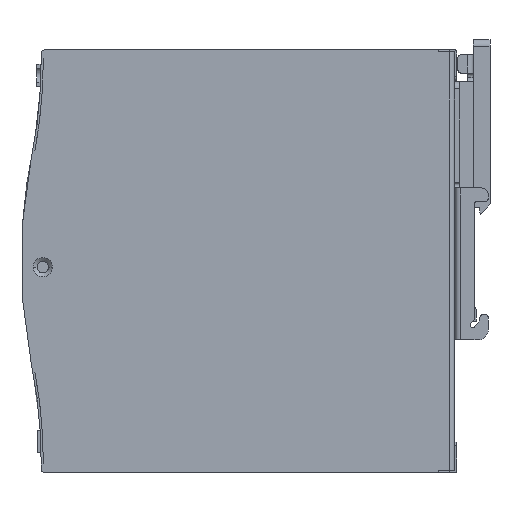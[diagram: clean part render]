
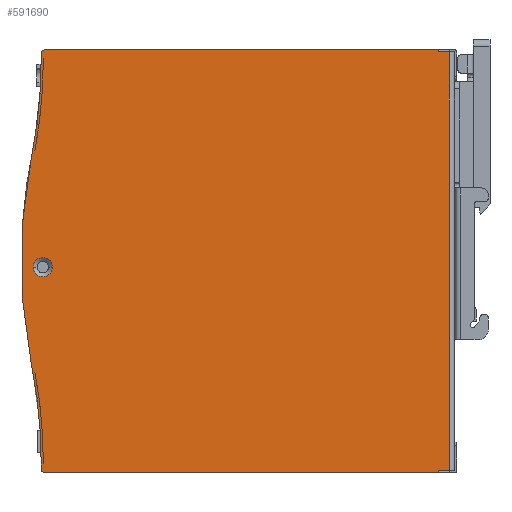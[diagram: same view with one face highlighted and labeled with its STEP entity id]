
A CAD part, front view. The second image highlights one B-rep face of the part: STEP entity #591690.
In plain terms, the highlighted planar face has unit normal (0, -1, 0).
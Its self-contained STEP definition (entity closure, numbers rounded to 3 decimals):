
#1620=CARTESIAN_POINT('',(95.953,13.236,74.));
#1630=VERTEX_POINT('',#1620);
#1660=CARTESIAN_POINT('',(0.,13.236,74.));
#1670=DIRECTION('',(1.,0.,0.));
#1680=VECTOR('',#1670,1.);
#1690=LINE('',#1660,#1680);
#1700=CARTESIAN_POINT('',(92.82,13.236,74.));
#1710=VERTEX_POINT('',#1700);
#1720=EDGE_CURVE('',#1710,#1630,#1690,.T.);
#5940=CARTESIAN_POINT('',(-24.282,13.236,
72.061));
#5950=VERTEX_POINT('',#5940);
#5980=CARTESIAN_POINT('',(-174.282,13.236,72.019))
;
#5990=DIRECTION('',(0.,-1.,0.));
#6000=DIRECTION('',(0.,0.,-1.));
#6010=AXIS2_PLACEMENT_3D('',#5980,#5990,#6000);
#6020=CIRCLE('',#6010,150.);
#6030=CARTESIAN_POINT('',(-26.76,13.236,
44.865));
#6040=VERTEX_POINT('',#6030);
#6050=EDGE_CURVE('',#6040,#5950,#6020,.T.);
#6560=CARTESIAN_POINT('',(92.82,13.236,-50.));
#6570=VERTEX_POINT('',#6560);
#6600=CARTESIAN_POINT('',(0.,13.236,-50.));
#6610=DIRECTION('',(1.,0.,0.));
#6620=VECTOR('',#6610,1.);
#6630=LINE('',#6600,#6620);
#6640=CARTESIAN_POINT('',(95.953,13.236,-50.));
#6650=VERTEX_POINT('',#6640);
#6660=EDGE_CURVE('',#6570,#6650,#6630,.T.);
#10680=CARTESIAN_POINT('',(-174.282,13.236,-48.019
));
#10690=DIRECTION('',(0.,-1.,0.));
#10700=DIRECTION('',(0.,0.,-1.));
#10710=AXIS2_PLACEMENT_3D('',#10680,#10690,#10700);
#10720=CIRCLE('',#10710,150.);
#10730=CARTESIAN_POINT('',(-24.282,13.236,
-48.061));
#10740=VERTEX_POINT('',#10730);
#10750=CARTESIAN_POINT('',(-26.76,13.236,
-20.866));
#10760=VERTEX_POINT('',#10750);
#10770=EDGE_CURVE('',#10740,#10760,#10720,.T.);
#206600=CARTESIAN_POINT('',(-23.889,13.236,
-50.6));
#206610=VERTEX_POINT('',#206600);
#206640=CARTESIAN_POINT('',(1754.346,13.236,-50.6
));
#206650=DIRECTION('',(-1.,0.,0.));
#206660=VECTOR('',#206650,1.);
#206670=LINE('',#206640,#206660);
#206680=CARTESIAN_POINT('',(92.82,13.236,
-50.6));
#206690=VERTEX_POINT('',#206680);
#206700=EDGE_CURVE('',#206690,#206610,#206670,.T.);
#399880=CARTESIAN_POINT('',(92.82,13.236,
74.6));
#399890=VERTEX_POINT('',#399880);
#400080=CARTESIAN_POINT('',(92.82,13.236,
8997.141));
#400090=DIRECTION('',(-0.,0.,1.));
#400100=VECTOR('',#400090,1.);
#400110=LINE('',#400080,#400100);
#400120=EDGE_CURVE('',#1710,#399890,#400110,.T.);
#400320=CARTESIAN_POINT('',(-175.313,13.236,
72.113));
#400330=DIRECTION('',(0.,-1.,0.));
#400340=DIRECTION('',(-1.,0.,0.));
#400350=AXIS2_PLACEMENT_3D('',#400320,#400330,#400340);
#400360=CIRCLE('',#400350,151.031);
#400370=EDGE_CURVE('',#6040,#5950,#400360,.T.);
#590090=CARTESIAN_POINT('',(95.953,13.236,0.));
#590100=DIRECTION('',(0.,0.,-1.));
#590110=VECTOR('',#590100,1.);
#590120=LINE('',#590090,#590110);
#590130=EDGE_CURVE('',#1630,#6650,#590120,.T.);
#590750=CARTESIAN_POINT('',(-13.667,13.236,0.));
#590760=DIRECTION('',(-0.,-1.,-0.));
#590770=DIRECTION('',(-1.,0.,0.));
#590780=AXIS2_PLACEMENT_3D('',#590750,#590760,#590770);
#590790=PLANE('',#590780);
#590800=ORIENTED_EDGE('',*,*,#400370,.T.);
#590810=ORIENTED_EDGE('',*,*,#6050,.F.);
#590820=EDGE_LOOP('',(#590810,#590800));
#590830=FACE_BOUND('',#590820,.T.);
#590840=CARTESIAN_POINT('',(-24.447,13.236,10.25)
);
#590850=DIRECTION('',(0.,-1.,0.));
#590860=DIRECTION('',(1.,0.,0.));
#590870=AXIS2_PLACEMENT_3D('',#590840,#590850,#590860);
#590880=CIRCLE('',#590870,2.85);
#590890=CARTESIAN_POINT('',(-21.597,13.236,10.25)
);
#590900=VERTEX_POINT('',#590890);
#590910=CARTESIAN_POINT('',(-27.297,13.236,10.25)
);
#590920=VERTEX_POINT('',#590910);
#590930=EDGE_CURVE('',#590900,#590920,#590880,.T.);
#590940=ORIENTED_EDGE('',*,*,#590930,.F.);
#590950=EDGE_CURVE('',#590920,#590900,#590880,.T.);
#590960=ORIENTED_EDGE('',*,*,#590950,.F.);
#590970=EDGE_LOOP('',(#590960,#590940));
#590980=FACE_BOUND('',#590970,.T.);
#590990=ORIENTED_EDGE('',*,*,#10770,.F.);
#591000=CARTESIAN_POINT('',(-175.313,13.236,
-48.113));
#591010=DIRECTION('',(0.,-1.,0.));
#591020=DIRECTION('',(-1.,0.,0.));
#591030=AXIS2_PLACEMENT_3D('',#591000,#591010,#591020);
#591040=CIRCLE('',#591030,151.031);
#591050=EDGE_CURVE('',#10740,#10760,#591040,.T.);
#591060=ORIENTED_EDGE('',*,*,#591050,.T.);
#591070=EDGE_LOOP('',(#591060,#590990));
#591080=FACE_BOUND('',#591070,.T.);
#591090=EDGE_CURVE('',#206690,#6570,#400110,.T.);
#591100=ORIENTED_EDGE('',*,*,#591090,.T.);
#591110=ORIENTED_EDGE('',*,*,#206700,.F.);
#591120=CARTESIAN_POINT('',(-23.889,13.236,
-49.6));
#591130=DIRECTION('',(0.,-1.,0.));
#591140=DIRECTION('',(-1.,0.,0.));
#591150=AXIS2_PLACEMENT_3D('',#591120,#591130,#591140);
#591160=CIRCLE('',#591150,1.);
#591170=CARTESIAN_POINT('',(-24.889,13.236,
-49.59));
#591180=VERTEX_POINT('',#591170);
#591190=EDGE_CURVE('',#591180,#206610,#591160,.T.);
#591200=ORIENTED_EDGE('',*,*,#591190,.T.);
#591210=CARTESIAN_POINT('',(-175.296,13.236,
-48.111));
#591220=DIRECTION('',(0.,-1.,0.));
#591230=DIRECTION('',(-1.,0.,0.));
#591240=AXIS2_PLACEMENT_3D('',#591210,#591220,#591230);
#591250=CIRCLE('',#591240,150.414);
#591260=CARTESIAN_POINT('',(-27.904,13.236,
-18.11));
#591270=VERTEX_POINT('',#591260);
#591280=EDGE_CURVE('',#591180,#591270,#591250,.T.);
#591290=ORIENTED_EDGE('',*,*,#591280,.F.);
#591300=CARTESIAN_POINT('',(119.553,13.236,
12.));
#591310=DIRECTION('',(0.,-1.,0.));
#591320=DIRECTION('',(-1.,0.,0.));
#591330=AXIS2_PLACEMENT_3D('',#591300,#591310,#591320);
#591340=CIRCLE('',#591330,150.5);
#591350=CARTESIAN_POINT('',(-27.904,13.236,
42.11));
#591360=VERTEX_POINT('',#591350);
#591370=EDGE_CURVE('',#591360,#591270,#591340,.T.);
#591380=ORIENTED_EDGE('',*,*,#591370,.T.);
#591390=CARTESIAN_POINT('',(-175.296,13.236,
72.111));
#591400=DIRECTION('',(0.,-1.,0.));
#591410=DIRECTION('',(-1.,0.,0.));
#591420=AXIS2_PLACEMENT_3D('',#591390,#591400,#591410);
#591430=CIRCLE('',#591420,150.414);
#591440=CARTESIAN_POINT('',(-24.889,13.236,
73.59));
#591450=VERTEX_POINT('',#591440);
#591460=EDGE_CURVE('',#591360,#591450,#591430,.T.);
#591470=ORIENTED_EDGE('',*,*,#591460,.F.);
#591480=CARTESIAN_POINT('',(-23.889,13.236,
73.6));
#591490=DIRECTION('',(0.,-1.,0.));
#591500=DIRECTION('',(-1.,0.,0.));
#591510=AXIS2_PLACEMENT_3D('',#591480,#591490,#591500);
#591520=CIRCLE('',#591510,1.);
#591530=CARTESIAN_POINT('',(-23.889,13.236,
74.6));
#591540=VERTEX_POINT('',#591530);
#591550=EDGE_CURVE('',#591540,#591450,#591520,.T.);
#591560=ORIENTED_EDGE('',*,*,#591550,.T.);
#591570=CARTESIAN_POINT('',(1754.346,13.236,74.6)
);
#591580=DIRECTION('',(1.,0.,0.));
#591590=VECTOR('',#591580,1.);
#591600=LINE('',#591570,#591590);
#591610=EDGE_CURVE('',#591540,#399890,#591600,.T.);
#591620=ORIENTED_EDGE('',*,*,#591610,.F.);
#591630=ORIENTED_EDGE('',*,*,#400120,.T.);
#591640=ORIENTED_EDGE('',*,*,#1720,.F.);
#591650=ORIENTED_EDGE('',*,*,#590130,.F.);
#591660=ORIENTED_EDGE('',*,*,#6660,.T.);
#591670=EDGE_LOOP('',(#591660,#591650,#591640,#591630,#591620,#591560,
#591470,#591380,#591290,#591200,#591110,#591100));
#591680=FACE_OUTER_BOUND('',#591670,.T.);
#591690=ADVANCED_FACE('',(#590830,#590980,#591080,#591680),#590790,.T.);
